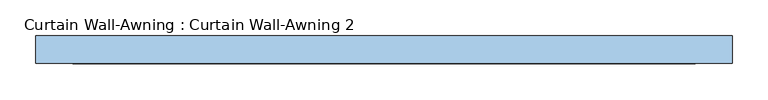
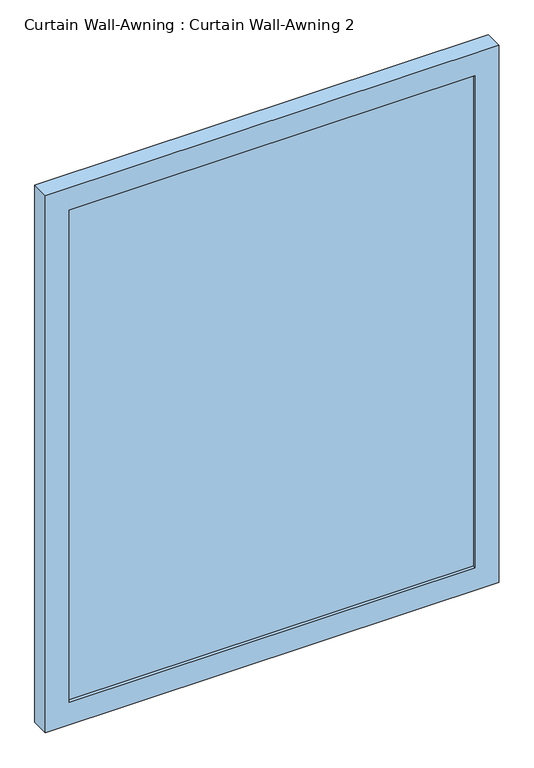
"""IFC4 building model written with IfcOpenShell, lengths in millimetres: window geometry, Curtain Wall-Awning : Curtain Wall-Awning 2."""

from ifc_helpers import new_model, si_unit, frame, origin, place, context, project, spatial, polyline, outline, extrude, source, transform, mapped, element, save


def curtain_wall_awning_curtain_wall_awning_2_5fe8b67b(model_context):
    return source(origin(), model_context, "Body", "SweptSolid", [
        extrude(outline(polyline([(432.9744025, 19.05), (432.9744025, 6.35), (-432.9744025, 6.35), (-432.9744025, 19.05), (432.9744025, 19.05)])), frame((0.0, 0.0, 50.8), z_axis=(0.0, 0.0, 1.0), x_axis=(1.0, 0.0, 0.0)), (0.0, 0.0, 1.0), 1109.5379274),
        extrude(outline(polyline([(1211.1379274, -483.7744025), (0.0, -483.7744025), (0.0, 483.7744025), (1211.1379274, 483.7744025), (1211.1379274, -483.7744025)]), holes=[polyline([(1160.3379274, -432.9744025), (1160.3379274, 432.9744025), (50.8, 432.9744025), (50.8, -432.9744025), (1160.3379274, -432.9744025)])]), frame((0.0, 0.0, 0.0), z_axis=(0.0, 1.0, 0.0), x_axis=(0.0, 0.0, 1.0)), (0.0, 0.0, 1.0), 38.1),
    ])


if __name__ == "__main__":
    model = new_model("IFC4")
    model_context = context("Model", 3, world=origin())
    ifc_project = project(units=[si_unit("LENGTHUNIT", "METRE", prefix="MILLI")], contexts=[model_context])
    site = spatial("IfcSite", under=ifc_project)
    building = spatial("IfcBuilding", under=site)
    placement = place(None, origin())
    curtain_wall_awning_curtain_wall_awning_2_shape = curtain_wall_awning_curtain_wall_awning_2_5fe8b67b(model_context)
    element("IfcWindow", 1, ObjectType="Curtain Wall-Awning : Curtain Wall-Awning 2", at=placement, inside=building, context=model_context, shape_type="MappedRepresentation", body=[
        mapped(curtain_wall_awning_curtain_wall_awning_2_shape, transform((0.0, 0.0, 0.0), x_axis=(1.0, 0.0, 0.0), y_axis=(0.0, 1.0, 0.0), z_axis=(0.0, 0.0, 1.0))),
    ])
    save(model, "model.ifc")
